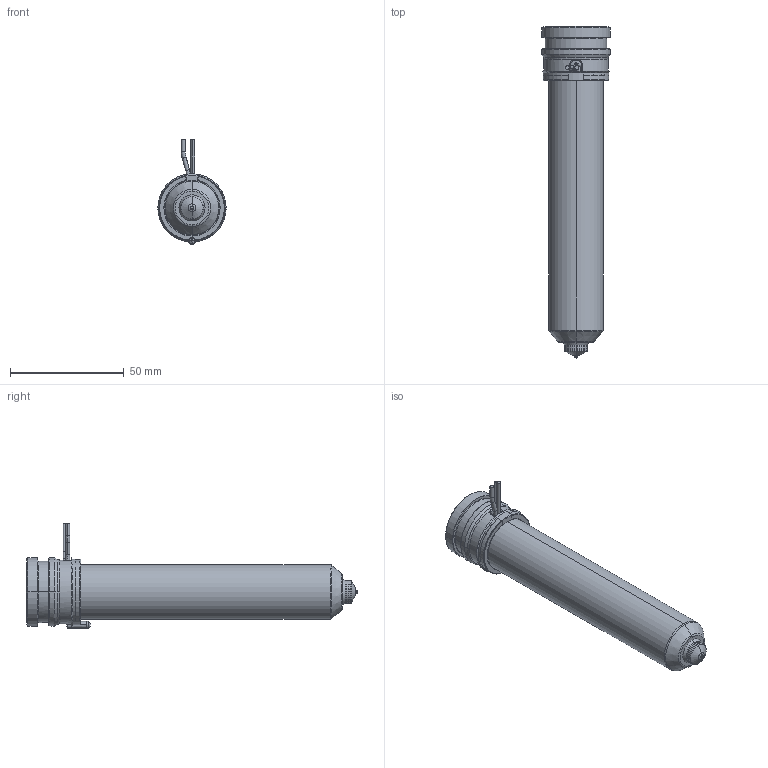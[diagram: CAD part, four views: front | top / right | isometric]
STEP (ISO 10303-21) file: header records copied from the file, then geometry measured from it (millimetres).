
FILE_DESCRIPTION((''),'2;1');
FILE_NAME('MPN-10-29-VSA10-126-A','2026-02-05T12:44:48',('UPTIO'),('Thermoplay S.p.A.'),'CREO PARAMETRIC BY PTC INC, 2023494','CREO PARAMETRIC BY PTC INC, 2023494','');
FILE_SCHEMA(('CONFIG_CONTROL_DESIGN','SHAPE_APPEARANCE_LAYERS_GROUPS'));
Length unit declared in the file: millimetre
Products named in the file (1): MPN-10-29-VSA10-126-A
Bounding box: 30 x 146 x 46 mm (x, y, z)
Volume: 45917.9 mm3; surface area: 46181.7 mm2
Topology: 2 solids, 3 shells, 556 faces, 1451 edges, 894 vertices
Faces by surface type: cylinder 184, plane 142, bspline 77, torus 70, cone 70, sphere 9, extrusion 4
Entity records: 28887 total; most frequent: CARTESIAN_POINT 12473, ORIENTED_EDGE 2890, DIRECTION 2691, EDGE_CURVE 1445, AXIS2_PLACEMENT_3D 1066, VERTEX_POINT 894, CIRCLE 590, EDGE_LOOP 585
